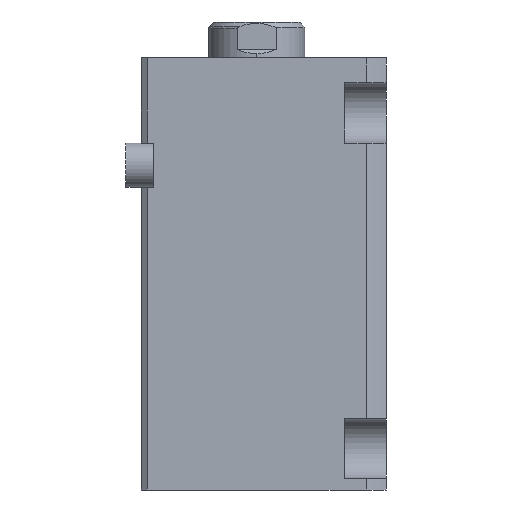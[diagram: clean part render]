
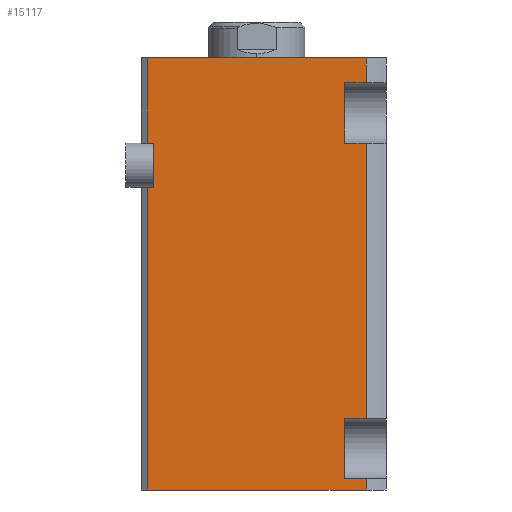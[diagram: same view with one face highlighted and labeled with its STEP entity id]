
A CAD part, left-side view. The second image highlights one B-rep face of the part: STEP entity #15117.
In plain terms, the highlighted planar face has unit normal (-1, 0, 0).
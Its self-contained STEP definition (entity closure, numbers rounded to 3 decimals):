
#47 = CARTESIAN_POINT ( 'NONE',  ( -57., 40., 110. ) ) ;
#85 = VERTEX_POINT ( 'NONE', #14667 ) ;
#151 = EDGE_CURVE ( 'NONE', #85, #11848, #7560, .T. ) ;
#460 = DIRECTION ( 'NONE',  ( 0., 1., 0. ) ) ;
#492 = EDGE_CURVE ( 'NONE', #11808, #6379, #2925, .T. ) ;
#712 = CARTESIAN_POINT ( 'NONE',  ( -57., -29.5, 4. ) ) ;
#750 = ORIENTED_EDGE ( 'NONE', *, *, #4136, .F. ) ;
#972 = CARTESIAN_POINT ( 'NONE',  ( -57., 40., 110. ) ) ;
#1404 = VERTEX_POINT ( 'NONE', #13317 ) ;
#1507 = VERTEX_POINT ( 'NONE', #14737 ) ;
#1550 = EDGE_CURVE ( 'NONE', #9589, #3736, #3502, .T. ) ;
#1657 = ORIENTED_EDGE ( 'NONE', *, *, #2027, .F. ) ;
#1779 = LINE ( 'NONE', #5555, #9281 ) ;
#2027 = EDGE_CURVE ( 'NONE', #12444, #12660, #11639, .T. ) ;
#2150 = VERTEX_POINT ( 'NONE', #3203 ) ;
#2285 = CARTESIAN_POINT ( 'NONE',  ( -57., 44.5, 126. ) ) ;
#2310 = DIRECTION ( 'NONE',  ( 0., 0., -1. ) ) ;
#2409 = AXIS2_PLACEMENT_3D ( 'NONE', #13004, #14418, #5995 ) ;
#2494 = ORIENTED_EDGE ( 'NONE', *, *, #12211, .F. ) ;
#2519 = VECTOR ( 'NONE', #7041, 1000. ) ;
#2542 = VERTEX_POINT ( 'NONE', #5950 ) ;
#2925 = LINE ( 'NONE', #3725, #9961 ) ;
#2955 = VERTEX_POINT ( 'NONE', #3651 ) ;
#3117 = EDGE_CURVE ( 'NONE', #15995, #2955, #13412, .T. ) ;
#3203 = CARTESIAN_POINT ( 'NONE',  ( -57., 40., 110. ) ) ;
#3502 = LINE ( 'NONE', #2285, #6803 ) ;
#3511 = ORIENTED_EDGE ( 'NONE', *, *, #492, .F. ) ;
#3647 = ORIENTED_EDGE ( 'NONE', *, *, #3846, .F. ) ;
#3651 = CARTESIAN_POINT ( 'NONE',  ( -57., -37.265, 148. ) ) ;
#3706 = VECTOR ( 'NONE', #7193, 1000. ) ;
#3725 = CARTESIAN_POINT ( 'NONE',  ( -57., -29.5, 157. ) ) ;
#3736 = VERTEX_POINT ( 'NONE', #17446 ) ;
#3776 = FACE_OUTER_BOUND ( 'NONE', #13422, .T. ) ;
#3846 = EDGE_CURVE ( 'NONE', #2150, #1507, #7130, .T. ) ;
#4005 = CARTESIAN_POINT ( 'NONE',  ( -57., 44.5, 148. ) ) ;
#4136 = EDGE_CURVE ( 'NONE', #15995, #3736, #9990, .T. ) ;
#4191 = VECTOR ( 'NONE', #7753, 1000. ) ;
#4200 = ORIENTED_EDGE ( 'NONE', *, *, #1550, .T. ) ;
#4231 = DIRECTION ( 'NONE',  ( 0., -1., 0. ) ) ;
#4411 = CARTESIAN_POINT ( 'NONE',  ( -57., 42.265, -143. ) ) ;
#4892 = EDGE_CURVE ( 'NONE', #11808, #10713, #18173, .T. ) ;
#5229 = CARTESIAN_POINT ( 'NONE',  ( -57., -37.265, 157. ) ) ;
#5313 = CARTESIAN_POINT ( 'NONE',  ( -57., 42.265, 157. ) ) ;
#5441 = DIRECTION ( 'NONE',  ( 0., -1., 0. ) ) ;
#5555 = CARTESIAN_POINT ( 'NONE',  ( -57., 44.5, 157. ) ) ;
#5619 = LINE ( 'NONE', #47, #8919 ) ;
#5651 = CARTESIAN_POINT ( 'NONE',  ( -57., -29.5, 157. ) ) ;
#5714 = DIRECTION ( 'NONE',  ( 0., 0., 1. ) ) ;
#5950 = CARTESIAN_POINT ( 'NONE',  ( -57., -37.265, 4. ) ) ;
#5995 = DIRECTION ( 'NONE',  ( 0., 1., 0. ) ) ;
#6379 = VERTEX_POINT ( 'NONE', #712 ) ;
#6404 = EDGE_CURVE ( 'NONE', #12444, #1404, #15730, .T. ) ;
#6474 = ORIENTED_EDGE ( 'NONE', *, *, #17103, .F. ) ;
#6803 = VECTOR ( 'NONE', #12134, 1000. ) ;
#6941 = EDGE_CURVE ( 'NONE', #2542, #6379, #12036, .T. ) ;
#7041 = DIRECTION ( 'NONE',  ( 0., 0., -1. ) ) ;
#7130 = LINE ( 'NONE', #972, #14648 ) ;
#7193 = DIRECTION ( 'NONE',  ( 0., 0., 1. ) ) ;
#7560 = LINE ( 'NONE', #4411, #14621 ) ;
#7753 = DIRECTION ( 'NONE',  ( 0., 0., -1. ) ) ;
#8034 = CARTESIAN_POINT ( 'NONE',  ( -57., -37.265, -143. ) ) ;
#8118 = CARTESIAN_POINT ( 'NONE',  ( -57., -29.5, 148. ) ) ;
#8346 = CARTESIAN_POINT ( 'NONE',  ( -57., -37.265, 126. ) ) ;
#8433 = VECTOR ( 'NONE', #13656, 1000. ) ;
#8919 = VECTOR ( 'NONE', #9909, 1000. ) ;
#9157 = DIRECTION ( 'NONE',  ( 0., -1., 0. ) ) ;
#9281 = VECTOR ( 'NONE', #13983, 1000. ) ;
#9340 = ORIENTED_EDGE ( 'NONE', *, *, #10945, .T. ) ;
#9415 = DIRECTION ( 'NONE',  ( 0., 0., 1. ) ) ;
#9589 = VERTEX_POINT ( 'NONE', #8346 ) ;
#9646 = VECTOR ( 'NONE', #5441, 1000. ) ;
#9909 = DIRECTION ( 'NONE',  ( 0., 1., 0. ) ) ;
#9961 = VECTOR ( 'NONE', #2310, 1000. ) ;
#9990 = LINE ( 'NONE', #5651, #2519 ) ;
#10050 = DIRECTION ( 'NONE',  ( 0., 1., 0. ) ) ;
#10206 = EDGE_CURVE ( 'NONE', #1507, #85, #13784, .T. ) ;
#10331 = CARTESIAN_POINT ( 'NONE',  ( -57., 40., 126. ) ) ;
#10713 = VERTEX_POINT ( 'NONE', #13879 ) ;
#10945 = EDGE_CURVE ( 'NONE', #2150, #12660, #5619, .T. ) ;
#11104 = VECTOR ( 'NONE', #4231, 1000. ) ;
#11130 = EDGE_CURVE ( 'NONE', #9589, #10713, #16002, .T. ) ;
#11592 = VECTOR ( 'NONE', #10050, 1000. ) ;
#11639 = LINE ( 'NONE', #12864, #3706 ) ;
#11808 = VERTEX_POINT ( 'NONE', #13684 ) ;
#11818 = CARTESIAN_POINT ( 'NONE',  ( -57., 42.265, 0. ) ) ;
#11848 = VERTEX_POINT ( 'NONE', #5313 ) ;
#11935 = CARTESIAN_POINT ( 'NONE',  ( -57., -37.265, -143. ) ) ;
#12023 = ORIENTED_EDGE ( 'NONE', *, *, #6404, .T. ) ;
#12036 = LINE ( 'NONE', #12752, #11592 ) ;
#12134 = DIRECTION ( 'NONE',  ( 0., 1., 0. ) ) ;
#12193 = VERTEX_POINT ( 'NONE', #5229 ) ;
#12211 = EDGE_CURVE ( 'NONE', #12193, #2955, #15976, .T. ) ;
#12229 = VECTOR ( 'NONE', #15605, 1000. ) ;
#12444 = VERTEX_POINT ( 'NONE', #11818 ) ;
#12660 = VERTEX_POINT ( 'NONE', #17701 ) ;
#12666 = CARTESIAN_POINT ( 'NONE',  ( -57., 44.5, 26. ) ) ;
#12752 = CARTESIAN_POINT ( 'NONE',  ( -57., 44.5, 4. ) ) ;
#12864 = CARTESIAN_POINT ( 'NONE',  ( -57., 42.265, -143. ) ) ;
#12881 = CARTESIAN_POINT ( 'NONE',  ( -57., -37.265, -143. ) ) ;
#13004 = CARTESIAN_POINT ( 'NONE',  ( -57., 44.5, 157. ) ) ;
#13274 = ORIENTED_EDGE ( 'NONE', *, *, #151, .F. ) ;
#13317 = CARTESIAN_POINT ( 'NONE',  ( -57., -37.265, 0. ) ) ;
#13338 = ORIENTED_EDGE ( 'NONE', *, *, #11130, .F. ) ;
#13358 = VECTOR ( 'NONE', #460, 1000. ) ;
#13374 = ORIENTED_EDGE ( 'NONE', *, *, #6941, .T. ) ;
#13412 = LINE ( 'NONE', #4005, #9646 ) ;
#13421 = CARTESIAN_POINT ( 'NONE',  ( -57., 44.5, 0. ) ) ;
#13422 = EDGE_LOOP ( 'NONE', ( #1657, #12023, #6474, #13374, #3511, #16075, #13338, #4200, #750, #17723, #2494, #14668, #13274, #15337, #3647, #9340 ) ) ;
#13656 = DIRECTION ( 'NONE',  ( 0., 0., -1. ) ) ;
#13684 = CARTESIAN_POINT ( 'NONE',  ( -57., -29.5, 26. ) ) ;
#13784 = LINE ( 'NONE', #10331, #13358 ) ;
#13879 = CARTESIAN_POINT ( 'NONE',  ( -57., -37.265, 26. ) ) ;
#13983 = DIRECTION ( 'NONE',  ( 0., -1., 0. ) ) ;
#14104 = PLANE ( 'NONE',  #2409 ) ;
#14418 = DIRECTION ( 'NONE',  ( 1., 0., 0. ) ) ;
#14621 = VECTOR ( 'NONE', #5714, 1000. ) ;
#14648 = VECTOR ( 'NONE', #9415, 1000. ) ;
#14667 = CARTESIAN_POINT ( 'NONE',  ( -57., 42.265, 126. ) ) ;
#14668 = ORIENTED_EDGE ( 'NONE', *, *, #16718, .F. ) ;
#14737 = CARTESIAN_POINT ( 'NONE',  ( -57., 40., 126. ) ) ;
#14847 = VECTOR ( 'NONE', #9157, 1000. ) ;
#15117 = ADVANCED_FACE ( 'NONE', ( #3776 ), #14104, .F. ) ;
#15337 = ORIENTED_EDGE ( 'NONE', *, *, #10206, .F. ) ;
#15454 = LINE ( 'NONE', #11935, #4191 ) ;
#15605 = DIRECTION ( 'NONE',  ( 0., 0., -1. ) ) ;
#15730 = LINE ( 'NONE', #13421, #14847 ) ;
#15976 = LINE ( 'NONE', #8034, #8433 ) ;
#15995 = VERTEX_POINT ( 'NONE', #8118 ) ;
#16002 = LINE ( 'NONE', #12881, #12229 ) ;
#16075 = ORIENTED_EDGE ( 'NONE', *, *, #4892, .T. ) ;
#16718 = EDGE_CURVE ( 'NONE', #11848, #12193, #1779, .T. ) ;
#17103 = EDGE_CURVE ( 'NONE', #2542, #1404, #15454, .T. ) ;
#17446 = CARTESIAN_POINT ( 'NONE',  ( -57., -29.5, 126. ) ) ;
#17701 = CARTESIAN_POINT ( 'NONE',  ( -57., 42.265, 110. ) ) ;
#17723 = ORIENTED_EDGE ( 'NONE', *, *, #3117, .T. ) ;
#18173 = LINE ( 'NONE', #12666, #11104 ) ;
